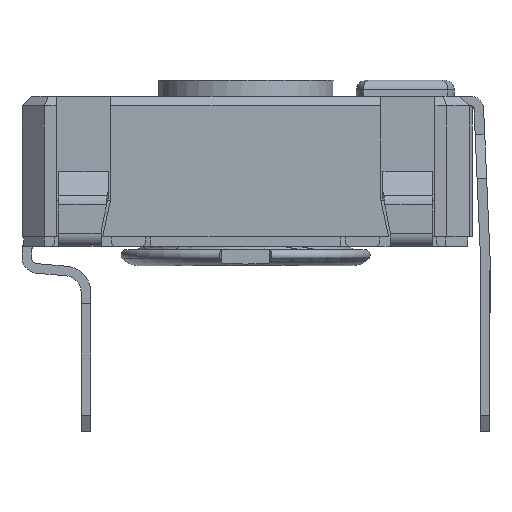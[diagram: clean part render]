
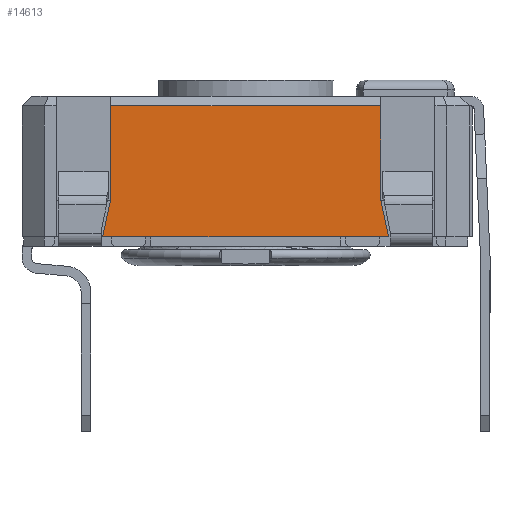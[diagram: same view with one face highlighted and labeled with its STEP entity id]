
A CAD part, left-side view. The second image highlights one B-rep face of the part: STEP entity #14613.
In plain terms, the highlighted planar face has unit normal (-1, 0, 0).
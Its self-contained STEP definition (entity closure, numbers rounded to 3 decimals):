
#1319=FACE_OUTER_BOUND('',#2072,.T.);
#2072=EDGE_LOOP('',(#12408,#12409,#12410,#12411,#12412,#12413));
#2952=LINE('',#22019,#4544);
#3284=LINE('',#23032,#4876);
#3288=LINE('',#23039,#4880);
#3645=LINE('',#23804,#5237);
#3650=LINE('',#23812,#5242);
#3651=LINE('',#23814,#5243);
#4544=VECTOR('',#17761,10.);
#4876=VECTOR('',#18527,10.);
#4880=VECTOR('',#18533,10.);
#5237=VECTOR('',#19278,10.);
#5242=VECTOR('',#19285,10.);
#5243=VECTOR('',#19288,10.);
#6059=VERTEX_POINT('',#22016);
#6060=VERTEX_POINT('',#22018);
#6383=VERTEX_POINT('',#23029);
#6384=VERTEX_POINT('',#23031);
#6386=VERTEX_POINT('',#23037);
#6586=VERTEX_POINT('',#23810);
#7718=EDGE_CURVE('',#6059,#6060,#2952,.T.);
#8162=EDGE_CURVE('',#6383,#6384,#3284,.T.);
#8166=EDGE_CURVE('',#6383,#6386,#3288,.T.);
#8547=EDGE_CURVE('',#6060,#6386,#3645,.T.);
#8552=EDGE_CURVE('',#6586,#6059,#3650,.T.);
#8553=EDGE_CURVE('',#6586,#6384,#3651,.T.);
#12408=ORIENTED_EDGE('',*,*,#8162,.F.);
#12409=ORIENTED_EDGE('',*,*,#8166,.T.);
#12410=ORIENTED_EDGE('',*,*,#8547,.F.);
#12411=ORIENTED_EDGE('',*,*,#7718,.F.);
#12412=ORIENTED_EDGE('',*,*,#8552,.F.);
#12413=ORIENTED_EDGE('',*,*,#8553,.T.);
#13191=PLANE('',#15702);
#14613=ADVANCED_FACE('',(#1319),#13191,.T.);
#15702=AXIS2_PLACEMENT_3D('',#23848,#19334,#19335);
#17761=DIRECTION('',(0.,1.,0.));
#18527=DIRECTION('',(0.,-1.,0.));
#18533=DIRECTION('',(0.,0.,-1.));
#19278=DIRECTION('',(0.,-0.208,0.978));
#19285=DIRECTION('',(0.,-0.208,-0.978));
#19288=DIRECTION('',(0.,0.,1.));
#19334=DIRECTION('center_axis',(-1.,0.,0.));
#19335=DIRECTION('ref_axis',(0.,0.,1.));
#22016=CARTESIAN_POINT('',(-7.,-4.425,-2.225));
#22018=CARTESIAN_POINT('',(-7.,4.525,-2.225));
#22019=CARTESIAN_POINT('',(-7.,-6.25,-2.225));
#23029=CARTESIAN_POINT('',(-7.,4.275,1.875));
#23031=CARTESIAN_POINT('',(-7.,-4.175,1.875));
#23032=CARTESIAN_POINT('',(-7.,-3.1,1.875));
#23037=CARTESIAN_POINT('',(-7.,4.275,-1.049));
#23039=CARTESIAN_POINT('',(-7.,4.275,-2.225));
#23804=CARTESIAN_POINT('',(-7.,4.525,-2.225));
#23810=CARTESIAN_POINT('',(-7.,-4.175,-1.049));
#23812=CARTESIAN_POINT('',(-7.,-4.175,-1.049));
#23814=CARTESIAN_POINT('',(-7.,-4.175,-2.225));
#23848=CARTESIAN_POINT('Origin',(-7.,-6.25,-2.225));
